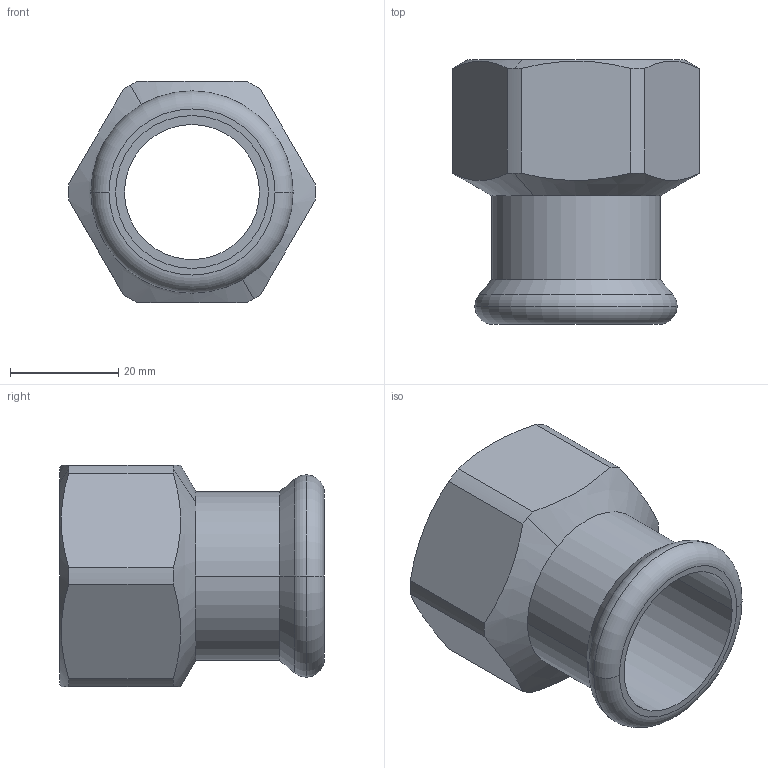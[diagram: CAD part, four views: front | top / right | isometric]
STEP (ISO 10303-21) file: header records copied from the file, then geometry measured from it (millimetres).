
FILE_DESCRIPTION(('CoCreate Modeling STEP Export'),'2;1');
FILE_NAME('C1402 28xRp1.stp','2014-11-07T12:44:41',(''),(''),'CoCreate Modeling STEP processor for AP214 (Solid Model)','CoCreate Modeling 17.00A 17-Jun-2010 (C) Parametric Technology GmbH','');
FILE_SCHEMA(('AUTOMOTIVE_DESIGN { 1 0 10303 214 1 1 1 1 }'));
Length unit declared in the file: millimetre
Products named in the file (2): C1402_28xRp1
Assembly tree (1 placements, depth 2):
  C1402_28xRp1
    C1402_28xRp1
Bounding box: 45.69 x 49 x 41 mm (x, y, z)
Volume: 18856.4 mm3; surface area: 12411.9 mm2
Topology: 1 solids, 1 shells, 34 faces, 88 edges, 58 vertices
Faces by surface type: cylinder 14, plane 10, cone 6, torus 4
Entity records: 1848 total; most frequent: CARTESIAN_POINT 1051, ORIENTED_EDGE 176, DIRECTION 136, EDGE_CURVE 88, VERTEX_POINT 58, AXIS2_PLACEMENT_3D 55, EDGE_LOOP 38, FACE_OUTER_BOUND 34
